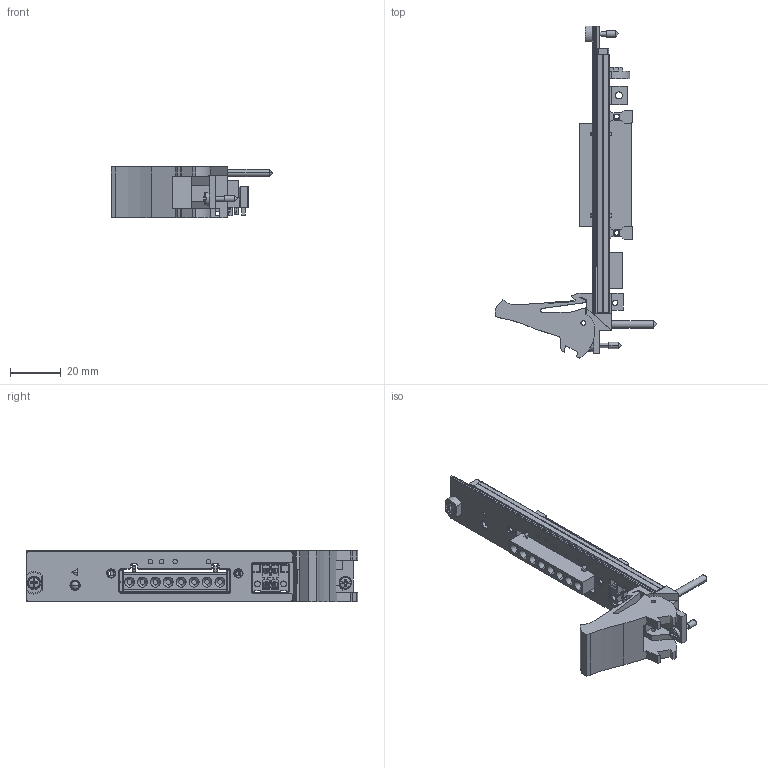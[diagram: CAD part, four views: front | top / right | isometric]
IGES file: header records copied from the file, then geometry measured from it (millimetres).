
Start section:  PTC IGES file: cu_pxie-413x.igs
Global section: file name: cu_pxie-413x.igs; native system: Creo Parametric by Parametric Technology Corporation; preprocessor: 2014000; author: jjorden; organization: Unknown; date: 20150701.132141; units: inch
Bounding box: 63.53 x 130.51 x 20.29 mm (x, y, z)
Surface area: 20313.9 mm2 (no closed solid volume)
Topology: 0 solids, 0 shells, 1211 faces, 6616 edges, 6592 vertices
Faces by surface type: bspline 810, revolution 401
